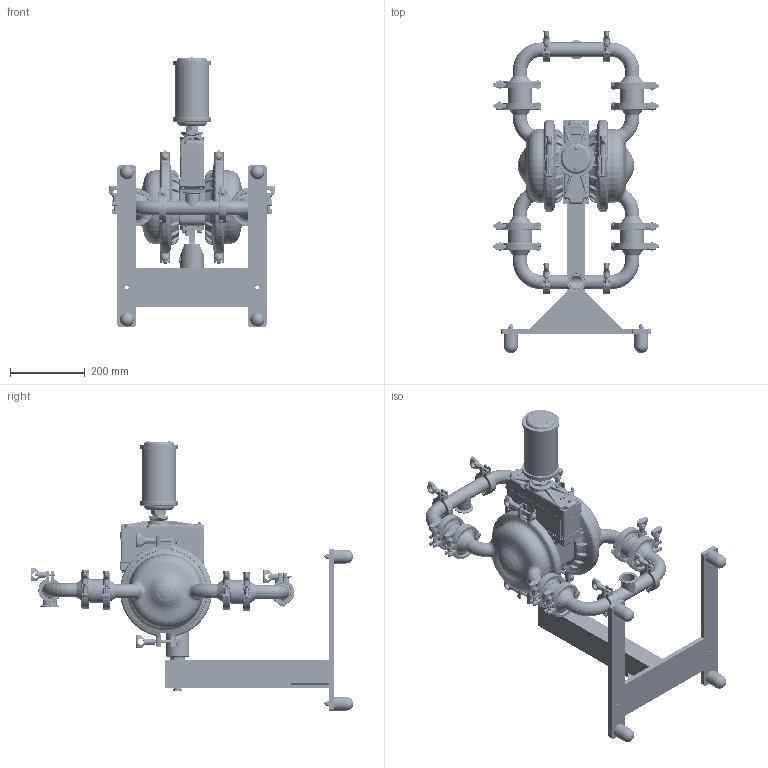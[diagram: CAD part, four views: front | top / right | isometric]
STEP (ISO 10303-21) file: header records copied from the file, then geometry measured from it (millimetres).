
FILE_DESCRIPTION((''),'2;1');
FILE_NAME('PS4_SS_SANIFLO_HS_SWI_SW0002','2015-03-25T',('nathan.hale'),(''),'PRO/ENGINEER BY PARAMETRIC TECHNOLOGY CORPORATION, 2011180','PRO/ENGINEER BY PARAMETRIC TECHNOLOGY CORPORATION, 2011180','');
FILE_SCHEMA(('CONFIG_CONTROL_DESIGN'));
Products named in the file (1): PS4_SS_SANIFLO_HS_SWI_SW0002
Bounding box: 444.01 x 862.39 x 721.39 mm (x, y, z)
Volume: 8142000.7 mm3; surface area: 2328182.3 mm2
Topology: 9 solids, 46 shells, 19029 faces, 49094 edges, 30719 vertices
Faces by surface type: plane 10113, cylinder 2908, bspline 2310, torus 1948, cone 1047, sphere 548, extrusion 155
Entity records: 1024945 total; most frequent: CARTESIAN_POINT 576281, ORIENTED_EDGE 97888, DIRECTION 86735, EDGE_CURVE 48944, VERTEX_POINT 30719, VECTOR 30521, LINE 30366, AXIS2_PLACEMENT_3D 28107
